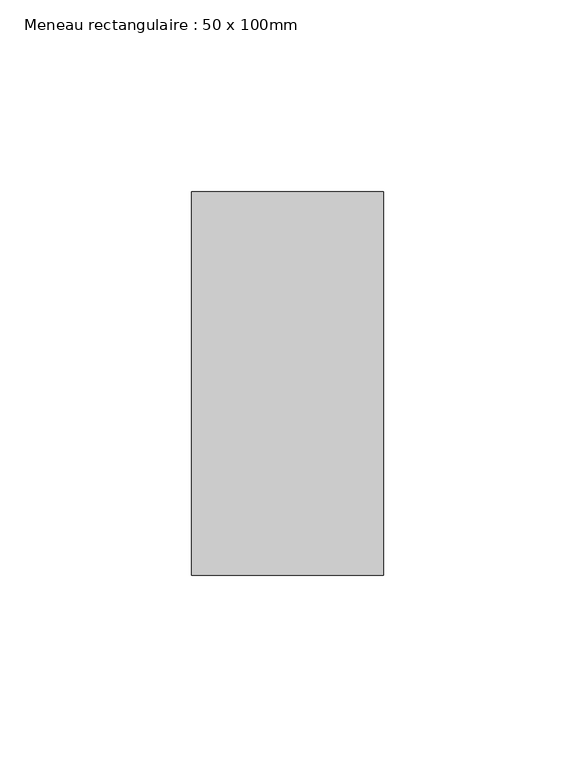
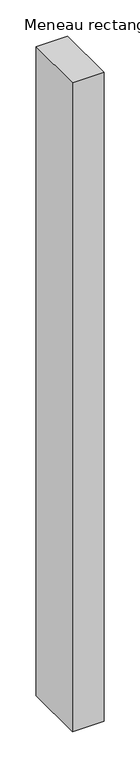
"""IFC4 building model written with IfcOpenShell, lengths in millimetres: member geometry, Meneau rectangulaire : 50 x 100mm."""

from ifc_helpers import new_model, si_unit, frame, origin, place, context, project, spatial, polyline, outline, extrude, source, transform, mapped, element, save


def meneau_rectangulaire_50_x_100mm_70707a87(model_context):
    return source(origin(), model_context, "Body", "SweptSolid", [
        extrude(outline(polyline([(25.0, 50.0), (25.0, -50.0), (-25.0, -50.0), (-25.0, 50.0), (25.0, 50.0)])), frame((0.0, 0.0, -1090.36452), z_axis=(0.0, 0.0, 1.0), x_axis=(1.0, 0.0, 0.0)), (0.0, 0.0, 1.0), 1090.36452),
    ])


if __name__ == "__main__":
    model = new_model("IFC4")
    model_context = context("Model", 3, world=origin())
    ifc_project = project(units=[si_unit("LENGTHUNIT", "METRE", prefix="MILLI")], contexts=[model_context])
    site = spatial("IfcSite", under=ifc_project)
    building = spatial("IfcBuilding", under=site)
    placement = place(None, origin())
    meneau_rectangulaire_50_x_100mm_shape = meneau_rectangulaire_50_x_100mm_70707a87(model_context)
    element("IfcMember", 1, ObjectType="Meneau rectangulaire : 50 x 100mm", at=placement, inside=building, context=model_context, shape_type="MappedRepresentation", body=[
        mapped(meneau_rectangulaire_50_x_100mm_shape, transform((0.0, 0.0, 0.0), x_axis=(1.0, 0.0, 0.0), y_axis=(0.0, 1.0, 0.0), z_axis=(0.0, 0.0, 1.0))),
    ])
    save(model, "model.ifc")
